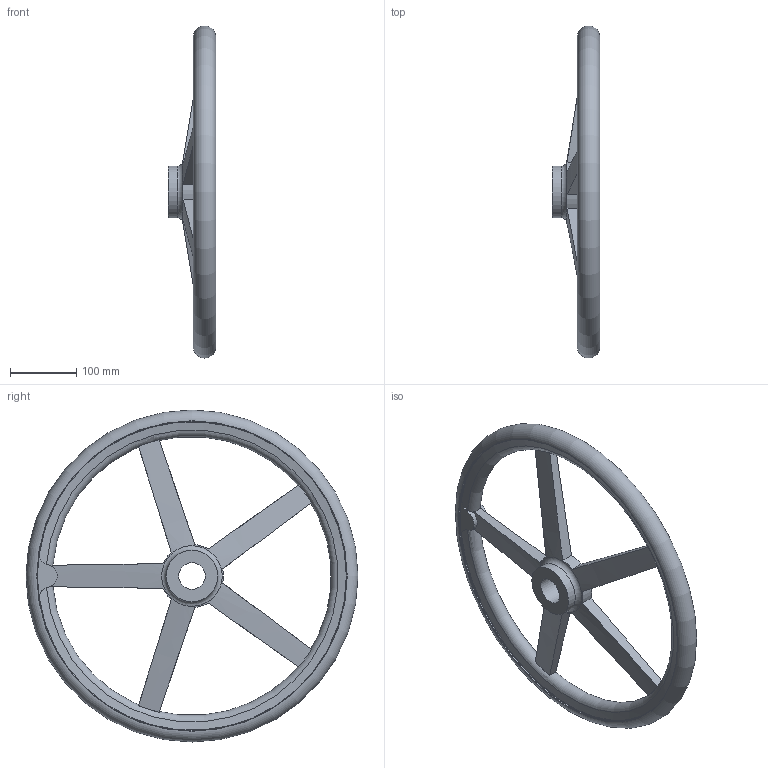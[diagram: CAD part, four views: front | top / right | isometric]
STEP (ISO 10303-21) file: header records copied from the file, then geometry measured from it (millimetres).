
FILE_DESCRIPTION( ( 'STEP AP203' ), '1' );
FILE_NAME( 'C:/Temp/Ganter_Step_05_03_2020/data/1_3/din_950/din_950_b/din_950_b_a/Handwheel DIN 950-AL-500-B40-A.stp', '2020-03-05T10:29:32', ( 'License CC BY-ND 4.0' ), ( 'CADENAS' ), ' ', 'PARTsolutions', ' ' );
FILE_SCHEMA( ( 'CONFIG_CONTROL_DESIGN' ) );
Length unit declared in the file: millimetre
Products named in the file (1): _Handwheel DIN 950-AL-500-B40-A
Bounding box: 72 x 499.99 x 499.99 mm (x, y, z)
Volume: 2074504.8 mm3; surface area: 280012.5 mm2
Topology: 1 solids, 1 shells, 54 faces, 164 edges, 106 vertices
Faces by surface type: torus 20, cylinder 16, plane 14, cone 4
Full cylindrical faces by diameter (mm): 40 x1, 78 x2, 466 x2
Entity records: 2328 total; most frequent: CARTESIAN_POINT 962, ORIENTED_EDGE 292, DIRECTION 244, EDGE_CURVE 146, AXIS2_PLACEMENT_3D 115, VERTEX_POINT 103, EDGE_LOOP 74, B_SPLINE_CURVE_WITH_KNOTS 72
